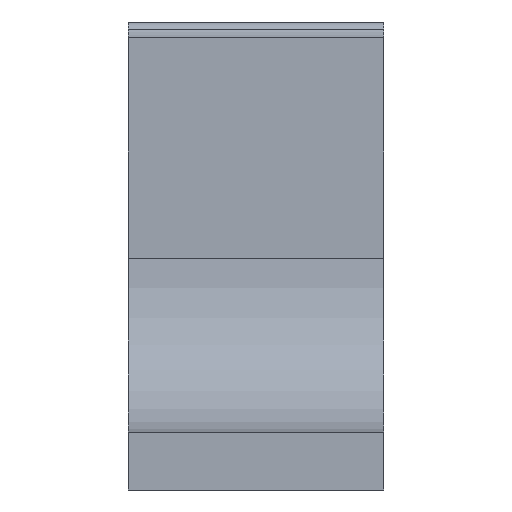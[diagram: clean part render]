
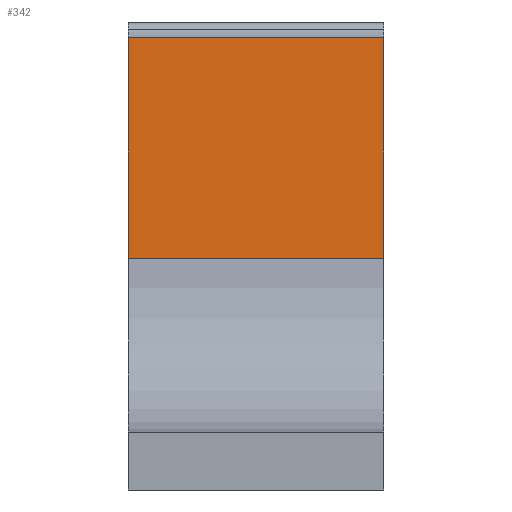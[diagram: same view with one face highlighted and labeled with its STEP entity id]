
A CAD part, front view. The second image highlights one B-rep face of the part: STEP entity #342.
In plain terms, the highlighted planar face has unit normal (0, -1, 0).
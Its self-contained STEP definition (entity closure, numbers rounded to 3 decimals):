
#290=CARTESIAN_POINT('Vertex',(22.,-20.,-21.)) ;
#293=CARTESIAN_POINT('Line Origine',(12.,-20.,-21.)) ;
#297=CARTESIAN_POINT('Vertex',(0.,-20.,-21.)) ;
#312=CARTESIAN_POINT('Axis2P3D Location',(22.,-20.,-21.)) ;
#317=CARTESIAN_POINT('Line Origine',(22.,-20.,-11.5)) ;
#321=CARTESIAN_POINT('Vertex',(22.,-20.,-2.)) ;
#324=CARTESIAN_POINT('Line Origine',(11.,-20.,-2.)) ;
#328=CARTESIAN_POINT('Vertex',(0.,-20.,-2.)) ;
#331=CARTESIAN_POINT('Line Origine',(0.,-20.,-11.5)) ;
#294=DIRECTION('Vector Direction',(1.,0.,0.)) ;
#313=DIRECTION('Axis2P3D Direction',(0.,1.,0.)) ;
#314=DIRECTION('Axis2P3D XDirection',(0.,0.,1.)) ;
#318=DIRECTION('Vector Direction',(0.,0.,1.)) ;
#325=DIRECTION('Vector Direction',(1.,0.,0.)) ;
#332=DIRECTION('Vector Direction',(0.,0.,1.)) ;
#315=AXIS2_PLACEMENT_3D('Plane Axis2P3D',#312,#313,#314) ;
#337=ORIENTED_EDGE('',*,*,#299,.T.) ;
#338=ORIENTED_EDGE('',*,*,#323,.T.) ;
#339=ORIENTED_EDGE('',*,*,#330,.F.) ;
#340=ORIENTED_EDGE('',*,*,#335,.F.) ;
#295=VECTOR('Line Direction',#294,1.) ;
#319=VECTOR('Line Direction',#318,1.) ;
#326=VECTOR('Line Direction',#325,1.) ;
#333=VECTOR('Line Direction',#332,1.) ;
#342=ADVANCED_FACE('PartBody',(#341),#316,.F.) ;
#299=EDGE_CURVE('',#298,#291,#296,.T.) ;
#323=EDGE_CURVE('',#291,#322,#320,.T.) ;
#330=EDGE_CURVE('',#329,#322,#327,.T.) ;
#335=EDGE_CURVE('',#298,#329,#334,.T.) ;
#336=EDGE_LOOP('',(#337,#338,#339,#340)) ;
#341=FACE_OUTER_BOUND('',#336,.T.) ;
#296=LINE('Line',#293,#295) ;
#320=LINE('Line',#317,#319) ;
#327=LINE('Line',#324,#326) ;
#334=LINE('Line',#331,#333) ;
#316=PLANE('',#315) ;
#291=VERTEX_POINT('',#290) ;
#298=VERTEX_POINT('',#297) ;
#322=VERTEX_POINT('',#321) ;
#329=VERTEX_POINT('',#328) ;
